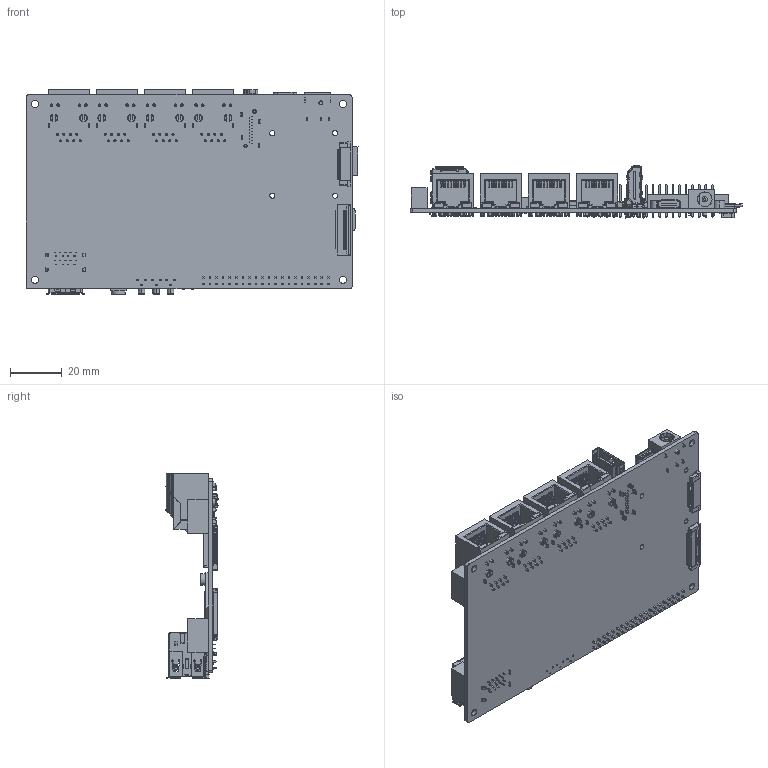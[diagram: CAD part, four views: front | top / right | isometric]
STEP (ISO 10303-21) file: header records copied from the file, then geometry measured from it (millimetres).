
FILE_DESCRIPTION (( 'STEP AP214' ), '1' );
FILE_NAME ('LubanCat 2N PCB 3D 恅璃.STEP', '2022-12-21T01:03:08', ( '' ), ( '' ), 'SwSTEP 2.0', 'SolidWorks 2021', '' );
FILE_SCHEMA (( 'AUTOMOTIVE_DESIGN' ));
Length unit declared in the file: millimetre
Products named in the file (23): 2.54邧齬齬渀; IRM-v838M3 綻俋泂え; FPC楹裔30P-0.5MM; User Library-pj-393-8_PJ-393-8_4; SIMｿｨ1; SD縐; x05b20u24t; SD縐釱赽; RK3568PCB; DC脣釱_囀噤_2MM俋噤_5.9MM; LubanCat 2N PCB 3D 恅璃; SIMｿｨmini; User Library-pj-393-8_PJ-393-8_1; 錨璃3^User Library-pj-393-8; 边三脚侧插侧按按键6mm; HR911105A; User Library-USB-TYPE-C20; User Library-pj-393-8; usb3x2; 錨璃4^User Library-pj-393-8; 72r3759_2007435-1; User Library-pj-393-8_PJ-393-8_2; 聆泂LED
Assembly tree (32 placements, depth 3):
  LubanCat 2N PCB 3D 恅璃
    RK3568PCB
    72r3759_2007435-1
    HR911105A  x4
    IRM-v838M3 綻俋泂え
    SD縐
    SIMｿｨ1
    SIMｿｨmini
    usb3x2
    User Library-USB-TYPE-C20
    边三脚侧插侧按按键6mm  x3
    聆泂LED  x2
    SD縐釱赽
    User Library-pj-393-8
      User Library-pj-393-8_PJ-393-8_1
      User Library-pj-393-8_PJ-393-8_2  x4
      User Library-pj-393-8_PJ-393-8_4  x3
      錨璃4^User Library-pj-393-8
    2.54邧齬齬渀
    FPC楹裔30P-0.5MM
    x05b20u24t
    DC脣釱_囀噤_2MM俋噤_5.9MM
  錨璃3^User Library-pj-393-8
Bounding box: 128.29 x 20.15 x 79.1 mm (x, y, z)
Volume: 35593.5 mm3; surface area: 46849.7 mm2
Topology: 58 solids, 138 shells, 7849 faces, 21182 edges, 13621 vertices
Faces by surface type: plane 5687, cylinder 1517, bspline 419, cone 142, torus 53, sphere 31
Entity records: 218951 total; most frequent: CARTESIAN_POINT 50083, ORIENTED_EDGE 32890, DIRECTION 27964, EDGE_CURVE 16545, VECTOR 13088, LINE 13088, VERTEX_POINT 10678, AXIS2_PLACEMENT_3D 7438
